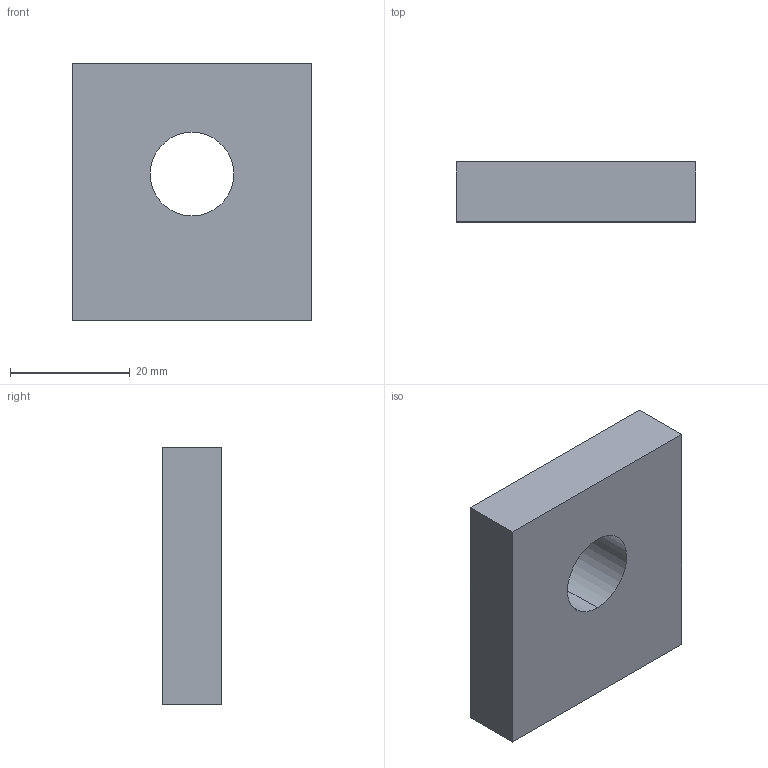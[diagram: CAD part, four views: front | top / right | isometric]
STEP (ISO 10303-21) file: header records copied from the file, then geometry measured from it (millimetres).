
FILE_DESCRIPTION (( 'STEP AP203' ), '1' );
FILE_NAME ('555.STEP', '2020-02-13T13:25:42', ( '' ), ( '' ), 'SwSTEP 2.0', 'SolidWorks 2013', '' );
FILE_SCHEMA (( 'CONFIG_CONTROL_DESIGN' ));
Length unit declared in the file: millimetre
Products named in the file (1): 555
Bounding box: 40 x 10 x 43 mm (x, y, z)
Volume: 15660.6 mm3; surface area: 5231.9 mm2
Topology: 1 solids, 1 shells, 8 faces, 18 edges, 12 vertices
Faces by surface type: plane 6, cylinder 2
Entity records: 307 total; most frequent: DIRECTION 40, CARTESIAN_POINT 39, ORIENTED_EDGE 36, EDGE_CURVE 18, VECTOR 14, LINE 14, AXIS2_PLACEMENT_3D 13, VERTEX_POINT 12
